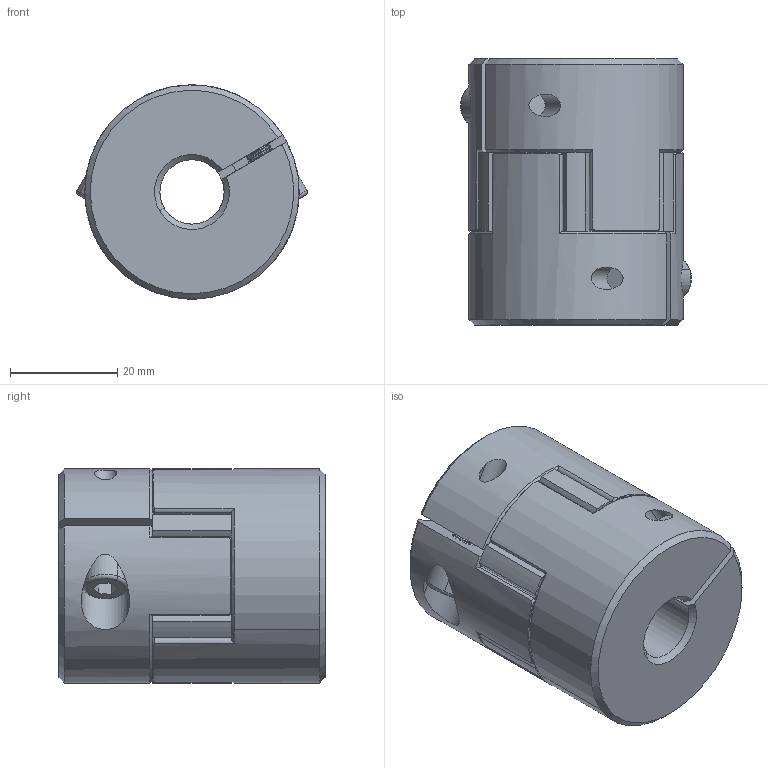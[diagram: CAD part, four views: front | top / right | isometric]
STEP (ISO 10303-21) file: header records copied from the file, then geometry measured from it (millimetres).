
FILE_DESCRIPTION (( 'STEP AP203' ), '1' );
FILE_NAME ('LF-B-D40L50-12-12.STEP', '2021-10-25T02:43:42', ( '' ), ( '' ), 'SwSTEP 2.0', 'SolidWorks 2018', '' );
FILE_SCHEMA (( 'CONFIG_CONTROL_DESIGN' ));
Length unit declared in the file: millimetre
Products named in the file (1): LF-B-D40L50-12-12
Bounding box: 43.11 x 49.7 x 40 mm (x, y, z)
Volume: 52927.4 mm3; surface area: 14667 mm2
Topology: 1 solids, 7 shells, 471 faces, 1117 edges, 662 vertices
Faces by surface type: cone 170, cylinder 169, plane 128, torus 4
Entity records: 13972 total; most frequent: CARTESIAN_POINT 2895, DIRECTION 2509, ORIENTED_EDGE 2226, EDGE_CURVE 1113, AXIS2_PLACEMENT_3D 1040, VERTEX_POINT 662, CIRCLE 568, EDGE_LOOP 487
